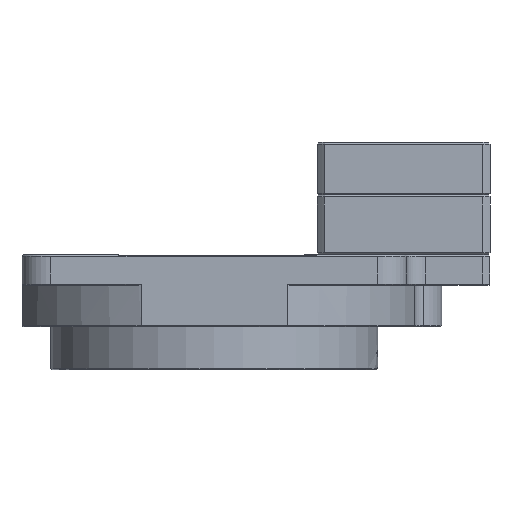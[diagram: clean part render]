
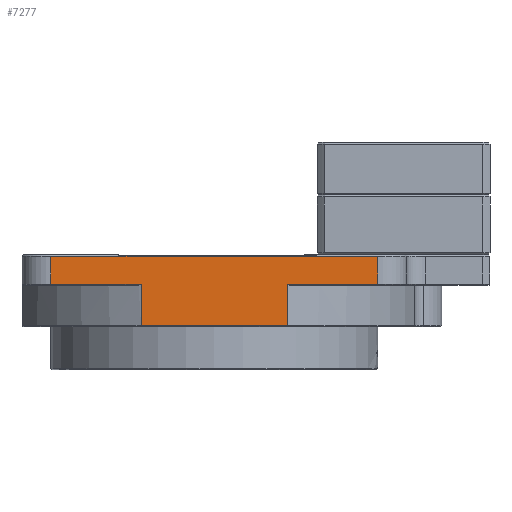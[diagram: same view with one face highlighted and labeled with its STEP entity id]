
A CAD part, left-side view. The second image highlights one B-rep face of the part: STEP entity #7277.
In plain terms, the highlighted planar face has unit normal (-1, 0, 0).
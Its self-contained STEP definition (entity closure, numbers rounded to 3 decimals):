
#77 = VERTEX_POINT ( 'NONE', #1329 ) ;
#543 = VECTOR ( 'NONE', #16315, 1000. ) ;
#656 = CARTESIAN_POINT ( 'NONE',  ( -100., 85., -37.5 ) ) ;
#1329 = CARTESIAN_POINT ( 'NONE',  ( -100., -85., -1. ) ) ;
#1422 = ORIENTED_EDGE ( 'NONE', *, *, #10968, .T. ) ;
#1980 = VECTOR ( 'NONE', #11681, 1000. ) ;
#2785 = PLANE ( 'NONE',  #25893 ) ;
#3061 = LINE ( 'NONE', #18064, #1980 ) ;
#3728 = LINE ( 'NONE', #9800, #5995 ) ;
#3895 = VERTEX_POINT ( 'NONE', #6100 ) ;
#3951 = VERTEX_POINT ( 'NONE', #14725 ) ;
#4733 = LINE ( 'NONE', #18027, #16885 ) ;
#5048 = DIRECTION ( 'NONE',  ( -1., 0., 0. ) ) ;
#5995 = VECTOR ( 'NONE', #26895, 1000. ) ;
#6100 = CARTESIAN_POINT ( 'NONE',  ( -100., 85., -1. ) ) ;
#6432 = VERTEX_POINT ( 'NONE', #8694 ) ;
#6614 = EDGE_CURVE ( 'NONE', #18945, #6432, #3728, .T. ) ;
#6651 = VECTOR ( 'NONE', #15656, 1000. ) ;
#6871 = CARTESIAN_POINT ( 'NONE',  ( -100., 85., -37. ) ) ;
#6980 = CARTESIAN_POINT ( 'NONE',  ( -100., 38.066, -37. ) ) ;
#7277 = ADVANCED_FACE ( 'NONE', ( #22163 ), #2785, .T. ) ;
#7962 = VECTOR ( 'NONE', #22914, 1000. ) ;
#8093 = CARTESIAN_POINT ( 'NONE',  ( -100., 85., -15.5 ) ) ;
#8694 = CARTESIAN_POINT ( 'NONE',  ( -100., 38.066, -15.5 ) ) ;
#9786 = EDGE_CURVE ( 'NONE', #3951, #26459, #20694, .T. ) ;
#9800 = CARTESIAN_POINT ( 'NONE',  ( -100., 85., -15.5 ) ) ;
#10089 = VERTEX_POINT ( 'NONE', #22094 ) ;
#10179 = CARTESIAN_POINT ( 'NONE',  ( -100., -85., -15.5 ) ) ;
#10968 = EDGE_CURVE ( 'NONE', #10089, #3951, #17446, .T. ) ;
#11060 = CARTESIAN_POINT ( 'NONE',  ( -100., -38.066, 332.758 ) ) ;
#11667 = ORIENTED_EDGE ( 'NONE', *, *, #21669, .F. ) ;
#11677 = EDGE_CURVE ( 'NONE', #6432, #21689, #3061, .T. ) ;
#11681 = DIRECTION ( 'NONE',  ( 0., 0., -1. ) ) ;
#13140 = EDGE_CURVE ( 'NONE', #21689, #10089, #19899, .T. ) ;
#13228 = VECTOR ( 'NONE', #17023, 1000. ) ;
#13606 = EDGE_CURVE ( 'NONE', #26459, #77, #24017, .T. ) ;
#13778 = EDGE_LOOP ( 'NONE', ( #1422, #14560, #19496, #27018, #11667, #19359, #19715, #19856 ) ) ;
#13806 = DIRECTION ( 'NONE',  ( 0., 0., 1. ) ) ;
#14560 = ORIENTED_EDGE ( 'NONE', *, *, #9786, .T. ) ;
#14725 = CARTESIAN_POINT ( 'NONE',  ( -100., -38.066, -15.5 ) ) ;
#14808 = VECTOR ( 'NONE', #21776, 1000. ) ;
#15656 = DIRECTION ( 'NONE',  ( 0., -1., 0. ) ) ;
#16315 = DIRECTION ( 'NONE',  ( 0., -1., 0. ) ) ;
#16846 = LINE ( 'NONE', #18550, #7962 ) ;
#16885 = VECTOR ( 'NONE', #24368, 1000. ) ;
#17023 = DIRECTION ( 'NONE',  ( 0., 0., 1. ) ) ;
#17446 = LINE ( 'NONE', #11060, #13228 ) ;
#18027 = CARTESIAN_POINT ( 'NONE',  ( -100., 85., -37.5 ) ) ;
#18064 = CARTESIAN_POINT ( 'NONE',  ( -100., 38.066, 332.758 ) ) ;
#18550 = CARTESIAN_POINT ( 'NONE',  ( -100., 85., -1. ) ) ;
#18945 = VERTEX_POINT ( 'NONE', #20349 ) ;
#19359 = ORIENTED_EDGE ( 'NONE', *, *, #6614, .T. ) ;
#19443 = EDGE_CURVE ( 'NONE', #77, #3895, #16846, .T. ) ;
#19496 = ORIENTED_EDGE ( 'NONE', *, *, #13606, .T. ) ;
#19715 = ORIENTED_EDGE ( 'NONE', *, *, #11677, .T. ) ;
#19856 = ORIENTED_EDGE ( 'NONE', *, *, #13140, .T. ) ;
#19899 = LINE ( 'NONE', #6871, #6651 ) ;
#20349 = CARTESIAN_POINT ( 'NONE',  ( -100., 85., -15.5 ) ) ;
#20694 = LINE ( 'NONE', #8093, #543 ) ;
#21245 = CARTESIAN_POINT ( 'NONE',  ( -100., -85., -37.5 ) ) ;
#21669 = EDGE_CURVE ( 'NONE', #18945, #3895, #4733, .T. ) ;
#21689 = VERTEX_POINT ( 'NONE', #6980 ) ;
#21776 = DIRECTION ( 'NONE',  ( 0., 0., 1. ) ) ;
#22094 = CARTESIAN_POINT ( 'NONE',  ( -100., -38.066, -37. ) ) ;
#22163 = FACE_OUTER_BOUND ( 'NONE', #13778, .T. ) ;
#22914 = DIRECTION ( 'NONE',  ( 0., 1., 0. ) ) ;
#24017 = LINE ( 'NONE', #21245, #14808 ) ;
#24368 = DIRECTION ( 'NONE',  ( 0., 0., 1. ) ) ;
#25893 = AXIS2_PLACEMENT_3D ( 'NONE', #656, #5048, #13806 ) ;
#26459 = VERTEX_POINT ( 'NONE', #10179 ) ;
#26895 = DIRECTION ( 'NONE',  ( 0., -1., 0. ) ) ;
#27018 = ORIENTED_EDGE ( 'NONE', *, *, #19443, .T. ) ;
